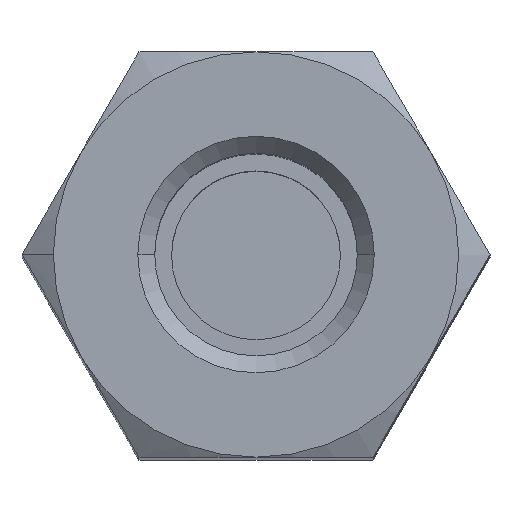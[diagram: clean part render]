
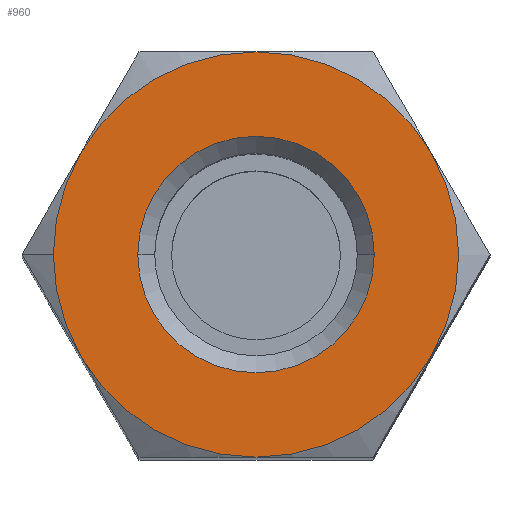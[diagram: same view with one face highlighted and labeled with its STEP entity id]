
A CAD part, top view. The second image highlights one B-rep face of the part: STEP entity #960.
In plain terms, the highlighted planar face has unit normal (0, 0, 1).
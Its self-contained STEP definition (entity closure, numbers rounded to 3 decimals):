
#31 = VERTEX_POINT ( 'NONE', #403 ) ;
#63 = AXIS2_PLACEMENT_3D ( 'NONE', #923, #1087, #387 ) ;
#67 = EDGE_CURVE ( 'NONE', #139, #494, #867, .T. ) ;
#84 = CIRCLE ( 'NONE', #194, 3. ) ;
#86 = DIRECTION ( 'NONE',  ( 0., 0., -1. ) ) ;
#91 = DIRECTION ( 'NONE',  ( 0., 0., 1. ) ) ;
#96 = VERTEX_POINT ( 'NONE', #1103 ) ;
#97 = DIRECTION ( 'NONE',  ( -1., 0., 0. ) ) ;
#117 = DIRECTION ( 'NONE',  ( -1., 0., 0. ) ) ;
#139 = VERTEX_POINT ( 'NONE', #766 ) ;
#140 = AXIS2_PLACEMENT_3D ( 'NONE', #583, #573, #746 ) ;
#146 = ORIENTED_EDGE ( 'NONE', *, *, #456, .F. ) ;
#165 = ORIENTED_EDGE ( 'NONE', *, *, #189, .T. ) ;
#178 = CARTESIAN_POINT ( 'NONE',  ( 0., 0., 12.5 ) ) ;
#189 = EDGE_CURVE ( 'NONE', #494, #31, #553, .T. ) ;
#194 = AXIS2_PLACEMENT_3D ( 'NONE', #605, #412, #1018 ) ;
#208 = CARTESIAN_POINT ( 'NONE',  ( -2.598, 1.5, 12.5 ) ) ;
#242 = DIRECTION ( 'NONE',  ( -1., 0., 0. ) ) ;
#250 = CARTESIAN_POINT ( 'NONE',  ( 0., 0., 12.5 ) ) ;
#253 = ORIENTED_EDGE ( 'NONE', *, *, #624, .T. ) ;
#257 = ORIENTED_EDGE ( 'NONE', *, *, #862, .T. ) ;
#263 = AXIS2_PLACEMENT_3D ( 'NONE', #178, #1025, #694 ) ;
#281 = AXIS2_PLACEMENT_3D ( 'NONE', #898, #385, #117 ) ;
#306 = DIRECTION ( 'NONE',  ( 0., 0., 1. ) ) ;
#314 = FACE_OUTER_BOUND ( 'NONE', #315, .T. ) ;
#315 = EDGE_LOOP ( 'NONE', ( #760, #914, #604, #165, #626, #419, #146 ) ) ;
#385 = DIRECTION ( 'NONE',  ( 0., 0., -1. ) ) ;
#387 = DIRECTION ( 'NONE',  ( -1., 0., 0. ) ) ;
#400 = DIRECTION ( 'NONE',  ( 0., 0., -1. ) ) ;
#403 = CARTESIAN_POINT ( 'NONE',  ( 2.598, -1.5, 12.5 ) ) ;
#412 = DIRECTION ( 'NONE',  ( 0., 0., 1. ) ) ;
#419 = ORIENTED_EDGE ( 'NONE', *, *, #1089, .T. ) ;
#446 = VERTEX_POINT ( 'NONE', #515 ) ;
#456 = EDGE_CURVE ( 'NONE', #687, #1053, #969, .T. ) ;
#469 = EDGE_LOOP ( 'NONE', ( #257, #253 ) ) ;
#493 = CARTESIAN_POINT ( 'NONE',  ( 0., 0., 12.5 ) ) ;
#494 = VERTEX_POINT ( 'NONE', #523 ) ;
#511 = CARTESIAN_POINT ( 'NONE',  ( 0., 3., 12.5 ) ) ;
#515 = CARTESIAN_POINT ( 'NONE',  ( 1.75, 0., 12.5 ) ) ;
#523 = CARTESIAN_POINT ( 'NONE',  ( 0., -3., 12.5 ) ) ;
#536 = VERTEX_POINT ( 'NONE', #619 ) ;
#553 = CIRCLE ( 'NONE', #63, 3. ) ;
#573 = DIRECTION ( 'NONE',  ( 0., 0., -1. ) ) ;
#583 = CARTESIAN_POINT ( 'NONE',  ( 0., 0., 12.5 ) ) ;
#587 = DIRECTION ( 'NONE',  ( -1., 0., 0. ) ) ;
#604 = ORIENTED_EDGE ( 'NONE', *, *, #67, .T. ) ;
#605 = CARTESIAN_POINT ( 'NONE',  ( 0., 0., 12.5 ) ) ;
#606 = EDGE_CURVE ( 'NONE', #687, #96, #849, .T. ) ;
#608 = CIRCLE ( 'NONE', #140, 1.75 ) ;
#614 = CARTESIAN_POINT ( 'NONE',  ( 0., 0., 12.5 ) ) ;
#619 = CARTESIAN_POINT ( 'NONE',  ( -1.75, 0., 12.5 ) ) ;
#623 = AXIS2_PLACEMENT_3D ( 'NONE', #614, #882, #97 ) ;
#624 = EDGE_CURVE ( 'NONE', #536, #446, #777, .T. ) ;
#625 = CIRCLE ( 'NONE', #263, 3. ) ;
#626 = ORIENTED_EDGE ( 'NONE', *, *, #1009, .T. ) ;
#646 = AXIS2_PLACEMENT_3D ( 'NONE', #675, #400, #242 ) ;
#663 = PLANE ( 'NONE',  #717 ) ;
#668 = DIRECTION ( 'NONE',  ( -1., 0., 0. ) ) ;
#675 = CARTESIAN_POINT ( 'NONE',  ( 0., 0., 12.5 ) ) ;
#687 = VERTEX_POINT ( 'NONE', #208 ) ;
#694 = DIRECTION ( 'NONE',  ( -1., 0., 0. ) ) ;
#717 = AXIS2_PLACEMENT_3D ( 'NONE', #493, #86, #1109 ) ;
#740 = AXIS2_PLACEMENT_3D ( 'NONE', #250, #91, #587 ) ;
#746 = DIRECTION ( 'NONE',  ( -1., 0., 0. ) ) ;
#752 = FACE_BOUND ( 'NONE', #469, .T. ) ;
#760 = ORIENTED_EDGE ( 'NONE', *, *, #606, .T. ) ;
#764 = VERTEX_POINT ( 'NONE', #885 ) ;
#766 = CARTESIAN_POINT ( 'NONE',  ( -2.598, -1.5, 12.5 ) ) ;
#775 = AXIS2_PLACEMENT_3D ( 'NONE', #920, #306, #668 ) ;
#777 = CIRCLE ( 'NONE', #281, 1.75 ) ;
#849 = CIRCLE ( 'NONE', #623, 3. ) ;
#862 = EDGE_CURVE ( 'NONE', #446, #536, #608, .T. ) ;
#867 = CIRCLE ( 'NONE', #775, 3. ) ;
#882 = DIRECTION ( 'NONE',  ( 0., 0., 1. ) ) ;
#885 = CARTESIAN_POINT ( 'NONE',  ( 2.598, 1.5, 12.5 ) ) ;
#898 = CARTESIAN_POINT ( 'NONE',  ( 0., 0., 12.5 ) ) ;
#914 = ORIENTED_EDGE ( 'NONE', *, *, #980, .T. ) ;
#920 = CARTESIAN_POINT ( 'NONE',  ( 0., 0., 12.5 ) ) ;
#923 = CARTESIAN_POINT ( 'NONE',  ( 0., 0., 12.5 ) ) ;
#960 = ADVANCED_FACE ( 'NONE', ( #752, #314 ), #663, .F. ) ;
#969 = CIRCLE ( 'NONE', #646, 3. ) ;
#980 = EDGE_CURVE ( 'NONE', #96, #139, #625, .T. ) ;
#1009 = EDGE_CURVE ( 'NONE', #31, #764, #1061, .T. ) ;
#1018 = DIRECTION ( 'NONE',  ( -1., 0., 0. ) ) ;
#1025 = DIRECTION ( 'NONE',  ( 0., 0., 1. ) ) ;
#1053 = VERTEX_POINT ( 'NONE', #511 ) ;
#1061 = CIRCLE ( 'NONE', #740, 3. ) ;
#1087 = DIRECTION ( 'NONE',  ( 0., 0., 1. ) ) ;
#1089 = EDGE_CURVE ( 'NONE', #764, #1053, #84, .T. ) ;
#1103 = CARTESIAN_POINT ( 'NONE',  ( -3., 0., 12.5 ) ) ;
#1109 = DIRECTION ( 'NONE',  ( 1., 0., 0. ) ) ;
